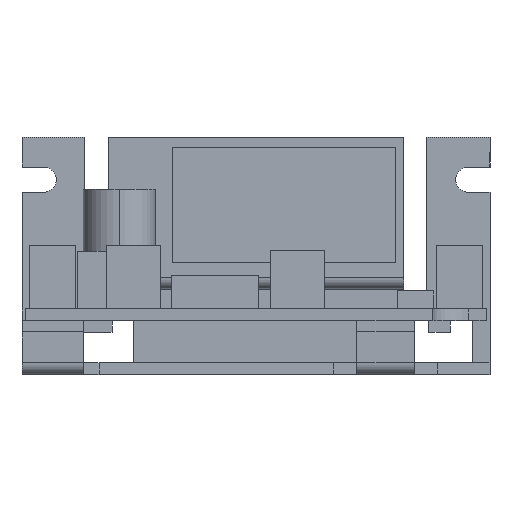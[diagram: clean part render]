
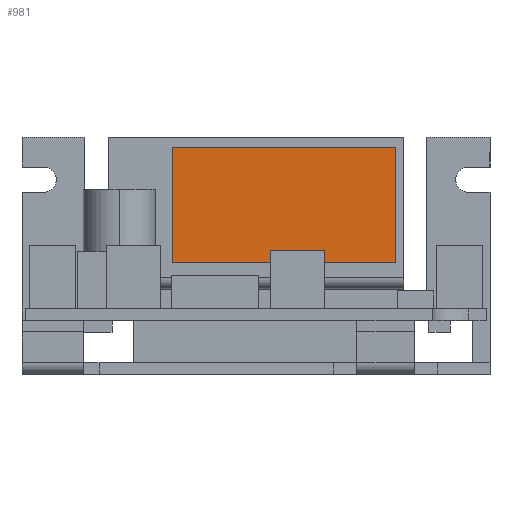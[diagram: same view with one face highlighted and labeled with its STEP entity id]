
A CAD part, top view. The second image highlights one B-rep face of the part: STEP entity #981.
In plain terms, the highlighted planar face has unit normal (0, 0, 1).
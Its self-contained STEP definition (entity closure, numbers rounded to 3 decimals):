
#353 = DIRECTION ( 'NONE',  ( 0., -1., 0. ) ) ;
#422 = PLANE ( 'NONE',  #3324 ) ;
#526 = VERTEX_POINT ( 'NONE', #2171 ) ;
#646 = VECTOR ( 'NONE', #904, 1000. ) ;
#880 = CARTESIAN_POINT ( 'NONE',  ( 19.37, 31.6, -14.55 ) ) ;
#904 = DIRECTION ( 'NONE',  ( 1., 0., 0. ) ) ;
#981 = ADVANCED_FACE ( 'NONE', ( #2010 ), #422, .T. ) ;
#1045 = EDGE_CURVE ( 'NONE', #2950, #5161, #4887, .T. ) ;
#1248 = DIRECTION ( 'NONE',  ( 1., 0., 0. ) ) ;
#1294 = ORIENTED_EDGE ( 'NONE', *, *, #1045, .T. ) ;
#1701 = ORIENTED_EDGE ( 'NONE', *, *, #2873, .T. ) ;
#1752 = LINE ( 'NONE', #4407, #2717 ) ;
#1782 = ORIENTED_EDGE ( 'NONE', *, *, #1801, .T. ) ;
#1801 = EDGE_CURVE ( 'NONE', #526, #4354, #3170, .T. ) ;
#2010 = FACE_OUTER_BOUND ( 'NONE', #4239, .T. ) ;
#2076 = EDGE_CURVE ( 'NONE', #4354, #2950, #4187, .T. ) ;
#2171 = CARTESIAN_POINT ( 'NONE',  ( -11.63, 31.6, -14.55 ) ) ;
#2717 = VECTOR ( 'NONE', #4813, 1000. ) ;
#2873 = EDGE_CURVE ( 'NONE', #5161, #526, #1752, .T. ) ;
#2950 = VERTEX_POINT ( 'NONE', #4457 ) ;
#3170 = LINE ( 'NONE', #5287, #3862 ) ;
#3305 = CARTESIAN_POINT ( 'NONE',  ( 0., 0., -14.55 ) ) ;
#3324 = AXIS2_PLACEMENT_3D ( 'NONE', #3305, #3716, #1248 ) ;
#3364 = CARTESIAN_POINT ( 'NONE',  ( -11.63, 15.6, -14.55 ) ) ;
#3716 = DIRECTION ( 'NONE',  ( 0., 0., 1. ) ) ;
#3756 = DIRECTION ( 'NONE',  ( 0., 1., 0. ) ) ;
#3862 = VECTOR ( 'NONE', #353, 1000. ) ;
#3920 = CARTESIAN_POINT ( 'NONE',  ( -11.63, 15.6, -14.55 ) ) ;
#4009 = ORIENTED_EDGE ( 'NONE', *, *, #2076, .T. ) ;
#4187 = LINE ( 'NONE', #3364, #646 ) ;
#4239 = EDGE_LOOP ( 'NONE', ( #1782, #4009, #1294, #1701 ) ) ;
#4354 = VERTEX_POINT ( 'NONE', #3920 ) ;
#4407 = CARTESIAN_POINT ( 'NONE',  ( -11.63, 31.6, -14.55 ) ) ;
#4457 = CARTESIAN_POINT ( 'NONE',  ( 19.37, 15.6, -14.55 ) ) ;
#4813 = DIRECTION ( 'NONE',  ( -1., 0., 0. ) ) ;
#4887 = LINE ( 'NONE', #880, #5016 ) ;
#5016 = VECTOR ( 'NONE', #3756, 1000. ) ;
#5038 = CARTESIAN_POINT ( 'NONE',  ( 19.37, 31.6, -14.55 ) ) ;
#5161 = VERTEX_POINT ( 'NONE', #5038 ) ;
#5287 = CARTESIAN_POINT ( 'NONE',  ( -11.63, 31.6, -14.55 ) ) ;
